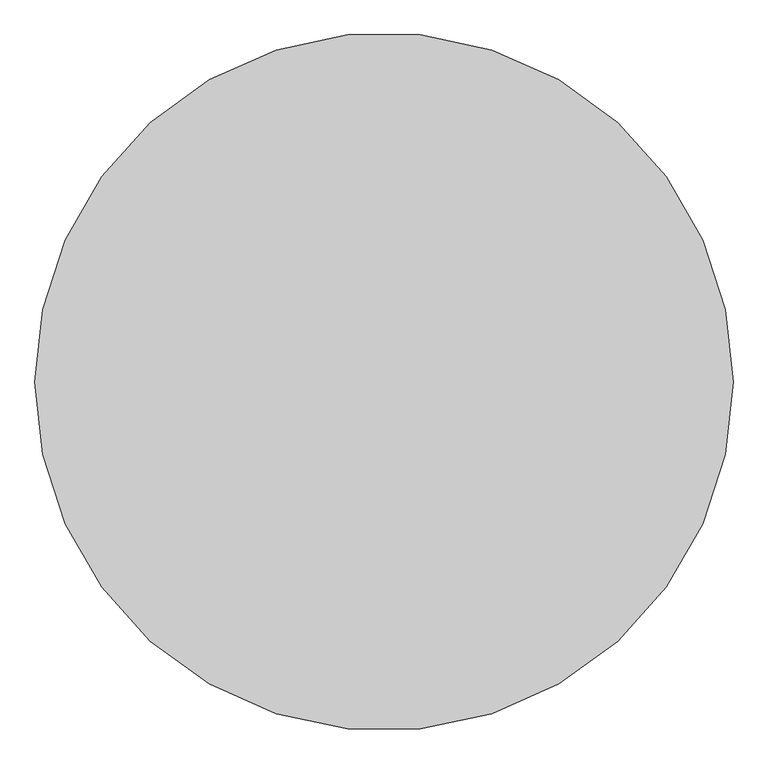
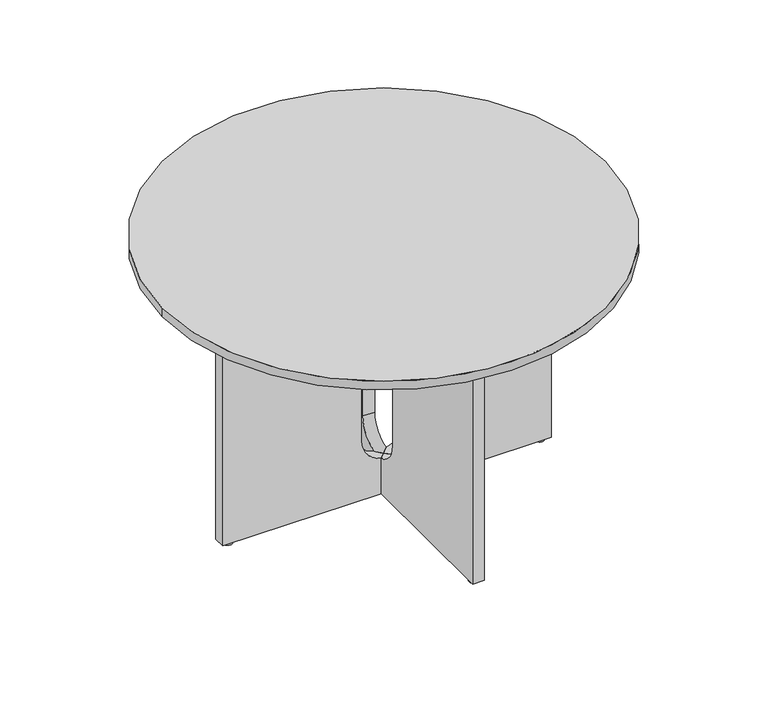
"""IFC4 building model written with IfcOpenShell, lengths in millimetres: furniture geometry, Audo Copenhagen - Androgyne - Dining Table Round - 120 : Dark Stained Oak/Kunis Breccia Sand."""

from ifc_helpers import new_model, si_unit, point, frame, frame_2d, origin, origin_with_axes, origin_2d, place, context, project, spatial, polyline, circle_curve, ellipse_curve, trimmed, segment, composite_curve, outline, extrude, source, transform, mapped, element, save
from ifc_brep_helpers import plane_surface, revolved_surface, advanced_brep


def furniture_845a83a7(model_context):
    return source(origin(), model_context, "Body", "SolidModel", [
        advanced_brep(
        [(70.0, -16.0, 177.0), (70.0, 16.0, 177.0), (16.0, 16.0, 108.8530999), (2.4e-06, 2.3e-06, 107.0), (16.0, -16.0, 108.8530999), (70.0, -16.0, 538.0), (70.0, 16.0, 538.0), (16.0, -16.0, 606.1469001), (2.4e-06, 2.3e-06, 608.0), (16.0, 16.0, 606.1469001), (445.0, -16.0, 708.0), (445.0, 16.0, 708.0), (16.0, 16.0, 708.0), (2.4e-06, 2.3e-06, 708.0), (16.0, -16.0, 708.0), (445.0, -16.0, 7.0), (16.0, -16.0, 7.0), (2.4e-06, 2.3e-06, 7.0), (16.0, 16.0, 7.0), (445.0, 16.0, 7.0)],
        [
            (0, 1),
            (1, 2, circle_curve(frame((0.0, 16.0, 177.0), z_axis=(0.0, 1.0, 0.0), x_axis=(-1.0, 0.0, 0.0)), 70.0)),
            (2, 3, ellipse_curve(frame((0.0, -2e-07, 177.0), z_axis=(-0.7071067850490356, 0.7071067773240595, 0.0), x_axis=(-0.7071067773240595, -0.7071067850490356, 0.0)), 98.9949499, 70.0)),
            (3, 4, ellipse_curve(frame((0.0, 4.7e-06, 177.0), z_axis=(-0.7071068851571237, -0.7071066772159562, 0.0), x_axis=(0.7071066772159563, -0.7071068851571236, 0.0)), 98.9949639, 70.0)),
            (4, 0, circle_curve(frame((0.0, -16.0, 177.0), z_axis=(0.0, -1.0, 0.0), x_axis=(-1.0, 0.0, 0.0)), 70.0)),
            (0, 5),
            (5, 6),
            (6, 1),
            (5, 7, circle_curve(frame((0.0, -16.0, 538.0), z_axis=(0.0, -1.0, 0.0), x_axis=(-1.0, 0.0, 0.0)), 70.0)),
            (7, 8, ellipse_curve(frame((0.0, 4.7e-06, 538.0), z_axis=(-0.7071068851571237, -0.7071066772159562, 0.0), x_axis=(0.7071066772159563, -0.7071068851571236, 0.0)), 98.9949639, 70.0)),
            (8, 9, ellipse_curve(frame((0.0, -2e-07, 538.0), z_axis=(-0.7071067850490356, 0.7071067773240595, 0.0), x_axis=(-0.7071067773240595, -0.7071067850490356, 0.0)), 98.9949499, 70.0)),
            (9, 6, circle_curve(frame((0.0, 16.0, 538.0), z_axis=(0.0, 1.0, 0.0), x_axis=(-1.0, 0.0, 0.0)), 70.0)),
            (10, 11),
            (11, 12),
            (12, 13),
            (13, 14),
            (14, 10),
            (15, 16),
            (16, 17),
            (17, 18),
            (18, 19),
            (19, 15),
            (14, 7),
            (4, 16),
            (15, 10),
            (11, 19),
            (18, 2),
            (9, 12),
            (13, 8),
            (3, 17),
        ],
        [
            revolved_surface(polyline([(-70.0, -70.00001586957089, 177.0), (-70.0, 70.0000252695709, 177.0)]), (0.0, 16.0, 177.0), (0.0, -1.0, 0.0)),
            plane_surface(frame((70.0, -16.0, 177.0), z_axis=(-1.0, 0.0, 0.0), x_axis=(0.0, 1.0, 0.0))),
            revolved_surface(polyline([(-70.0, -70.00001586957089, 538.0), (-70.0, 70.0000252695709, 538.0)]), (0.0, 16.0, 538.0), (0.0, -1.0, 0.0)),
            plane_surface(frame((445.0, 15.0, 708.0), z_axis=(0.0, 0.0, 1.0), x_axis=(0.0, 1.0, 0.0))),
            plane_surface(frame((445.0, 15.0, 7.0), z_axis=(0.0, 0.0, -1.0), x_axis=(0.0, -1.0, 0.0))),
            plane_surface(frame((16.0, -16.0, 708.0), z_axis=(0.0, -1.0, 0.0), x_axis=(0.0, 0.0, -1.0))),
            plane_surface(frame((445.0, 16.0, 708.0), z_axis=(0.0, 1.0, 0.0), x_axis=(0.0, 0.0, -1.0))),
            plane_surface(frame((445.0, -16.0, 708.0), z_axis=(1.0, 0.0, 0.0), x_axis=(0.0, 0.0, -1.0))),
            plane_surface(frame((2.4e-06, 2.3e-06, 708.0), z_axis=(-0.7071068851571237, -0.7071066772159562, 0.0), x_axis=(0.0, 0.0, -1.0))),
            plane_surface(frame((16.0, 16.0, 708.0), z_axis=(-0.7071067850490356, 0.7071067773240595, 0.0), x_axis=(0.0, 0.0, -1.0))),
        ],
        [
            (0, [[1, 2, 3, 4, 5]]),
            (1, [[-1, 6, 7, 8]]),
            (2, [[-7, 9, 10, 11, 12]]),
            (3, [[13, 14, 15, 16, 17]]),
            (4, [[18, 19, 20, 21, 22]]),
            (5, [[-17, 23, -9, -6, -5, 24, -18, 25]]),
            (6, [[-14, 26, -21, 27, -2, -8, -12, 28]]),
            (7, [[-13, -25, -22, -26]]),
            (8, [[-16, 29, -10, -23]]),
            (8, [[-19, -24, -4, 30]]),
            (9, [[-15, -28, -11, -29]]),
            (9, [[-20, -30, -3, -27]]),
        ],
    ),
        advanced_brep(
        [(-16.0, 70.0, 177.0), (16.0, 70.0, 177.0), (15.9999953, 70.0, 538.0), (-16.0, 70.0, 538.0), (-16.0000047, 16.0000002, 108.8530999), (-2.4e-06, 2.6e-06, 107.0), (15.9999953, 16.0000002, 108.8530999), (15.9999953, 16.0000002, 606.1469001), (-2.4e-06, 2.6e-06, 608.0), (-16.0000047, 16.0000002, 606.1469001), (-16.0000047, 445.0000002, 708.0), (-16.0000047, 16.0000002, 708.0), (-2.4e-06, 2.6e-06, 708.0), (15.9999953, 16.0000002, 708.0), (15.9999953, 445.0000002, 708.0), (-16.0000047, 445.0000002, 7.0), (15.9999953, 445.0000002, 7.0), (15.9999953, 16.0000002, 7.0), (-2.4e-06, 2.6e-06, 7.0), (-16.0000047, 16.0000002, 7.0)],
        [
            (0, 1),
            (1, 2),
            (2, 3),
            (3, 0),
            (0, 4, circle_curve(frame((-16.0000047, 0.0, 177.0), z_axis=(-1.0, 0.0, 0.0), x_axis=(0.0, -1.0, 0.0)), 70.0)),
            (4, 5, ellipse_curve(frame((2e-07, 0.0, 177.0), z_axis=(-0.7071066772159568, -0.707106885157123, 0.0), x_axis=(-0.7071068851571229, 0.7071066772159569, 0.0)), 98.9949639, 70.0)),
            (5, 6, ellipse_curve(frame((-5.1e-06, 0.0, 177.0), z_axis=(0.7071067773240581, -0.7071067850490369, 0.0), x_axis=(-0.7071067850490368, -0.7071067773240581, 0.0)), 98.9949499, 70.0)),
            (6, 1, circle_curve(frame((15.9999953, 0.0, 177.0), z_axis=(1.0, 0.0, 0.0), x_axis=(0.0, -1.0, 0.0)), 70.0)),
            (2, 7, circle_curve(frame((15.9999953, 0.0, 538.0), z_axis=(1.0, 0.0, 0.0), x_axis=(0.0, -1.0, 0.0)), 70.0)),
            (7, 8, ellipse_curve(frame((-5.1e-06, 0.0, 538.0), z_axis=(0.7071067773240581, -0.7071067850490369, 0.0), x_axis=(-0.7071067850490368, -0.7071067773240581, 0.0)), 98.9949499, 70.0)),
            (8, 9, ellipse_curve(frame((2e-07, 0.0, 538.0), z_axis=(-0.7071066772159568, -0.707106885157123, 0.0), x_axis=(-0.7071068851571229, 0.7071066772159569, 0.0)), 98.9949639, 70.0)),
            (9, 3, circle_curve(frame((-16.0000047, 0.0, 538.0), z_axis=(-1.0, 0.0, 0.0), x_axis=(0.0, -1.0, 0.0)), 70.0)),
            (10, 11),
            (11, 12),
            (12, 13),
            (13, 14),
            (14, 10),
            (15, 16),
            (16, 17),
            (17, 18),
            (18, 19),
            (19, 15),
            (10, 15),
            (19, 4),
            (9, 11),
            (13, 7),
            (6, 17),
            (16, 14),
            (8, 12),
            (18, 5),
        ],
        [
            plane_surface(frame((-16.0, 70.0, 538.0), z_axis=(0.0, -1.0, 0.0), x_axis=(1.0, 0.0, 0.0))),
            revolved_surface(polyline([(-70.00002036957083, -70.0, 177.0), (70.00002076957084, -70.0, 177.0)]), (16.0, 0.0, 177.0), (-1.0, 0.0, 0.0)),
            revolved_surface(polyline([(-70.00002036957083, -70.0, 538.0), (70.00002076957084, -70.0, 538.0)]), (16.0, 0.0, 538.0), (-1.0, 0.0, 0.0)),
            plane_surface(frame((-16.0000047, 444.0000002, 708.0), z_axis=(0.0, 0.0, 1.0), x_axis=(0.0, -1.0, 0.0))),
            plane_surface(frame((-16.0000047, 444.0000002, 7.0), z_axis=(0.0, 0.0, -1.0), x_axis=(0.0, 1.0, 0.0))),
            plane_surface(frame((-16.0000047, 445.0000002, 708.0), z_axis=(-1.0, 0.0, 0.0), x_axis=(0.0, 0.0, -1.0))),
            plane_surface(frame((15.9999953, 16.0000002, 708.0), z_axis=(1.0, 0.0, 0.0), x_axis=(0.0, 0.0, -1.0))),
            plane_surface(frame((15.9999953, 445.0000002, 708.0), z_axis=(0.0, 1.0, 0.0), x_axis=(0.0, 0.0, -1.0))),
            plane_surface(frame((-16.0000047, 16.0000002, 708.0), z_axis=(-0.7071066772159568, -0.707106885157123, 0.0), x_axis=(0.0, 0.0, -1.0))),
            plane_surface(frame((-2.4e-06, 2.6e-06, 708.0), z_axis=(0.7071067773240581, -0.7071067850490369, 0.0), x_axis=(0.0, 0.0, -1.0))),
        ],
        [
            (0, [[1, 2, 3, 4]]),
            (1, [[-1, 5, 6, 7, 8]]),
            (2, [[-3, 9, 10, 11, 12]]),
            (3, [[13, 14, 15, 16, 17]]),
            (4, [[18, 19, 20, 21, 22]]),
            (5, [[-13, 23, -22, 24, -5, -4, -12, 25]]),
            (6, [[-16, 26, -9, -2, -8, 27, -19, 28]]),
            (7, [[-17, -28, -18, -23]]),
            (8, [[-14, -25, -11, 29]]),
            (8, [[-21, 30, -6, -24]]),
            (9, [[-15, -29, -10, -26]]),
            (9, [[-20, -27, -7, -30]]),
        ],
    ),
        advanced_brep(
        [(-16.0, -70.0, 177.0), (16.0, -70.0, 177.0), (15.9999953, -16.0000002, 108.8530999), (-2.4e-06, -2.6e-06, 107.0), (-16.0000047, -16.0000002, 108.8530999), (-16.0000047, -70.0, 538.0), (16.0, -70.0, 538.0), (-16.0000047, -16.0000002, 606.1469001), (-2.4e-06, -2.6e-06, 608.0), (15.9999953, -16.0000002, 606.1469001), (-16.0000047, -445.0000002, 708.0), (15.9999953, -445.0000002, 708.0), (15.9999953, -16.0000002, 708.0), (-2.4e-06, -2.6e-06, 708.0), (-16.0000047, -16.0000002, 708.0), (-16.0000047, -445.0000002, 7.0), (-16.0000047, -16.0000002, 7.0), (-2.4e-06, -2.6e-06, 7.0), (15.9999953, -16.0000002, 7.0), (15.9999953, -445.0000002, 7.0)],
        [
            (0, 1),
            (1, 2, circle_curve(frame((15.9999953, 0.0, 177.0), z_axis=(1.0, 0.0, 0.0), x_axis=(0.0, 1.0, 0.0)), 70.0)),
            (2, 3, ellipse_curve(frame((-5.1e-06, 0.0, 177.0), z_axis=(0.7071067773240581, 0.7071067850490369, 0.0), x_axis=(-0.7071067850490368, 0.7071067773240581, 0.0)), 98.9949499, 70.0)),
            (3, 4, ellipse_curve(frame((2e-07, 0.0, 177.0), z_axis=(-0.7071066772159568, 0.707106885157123, 0.0), x_axis=(-0.707106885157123, -0.707106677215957, 0.0)), 98.9949639, 70.0)),
            (4, 0, circle_curve(frame((-16.0000047, 0.0, 177.0), z_axis=(-1.0, 0.0, 0.0), x_axis=(0.0, 1.0, 0.0)), 70.0)),
            (0, 5),
            (5, 6),
            (6, 1),
            (5, 7, circle_curve(frame((-16.0000047, 0.0, 538.0), z_axis=(-1.0, 0.0, 0.0), x_axis=(0.0, 1.0, 0.0)), 70.0)),
            (7, 8, ellipse_curve(frame((2e-07, 0.0, 538.0), z_axis=(-0.7071066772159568, 0.707106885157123, 0.0), x_axis=(-0.707106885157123, -0.707106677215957, 0.0)), 98.9949639, 70.0)),
            (8, 9, ellipse_curve(frame((-5.1e-06, 0.0, 538.0), z_axis=(0.7071067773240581, 0.7071067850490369, 0.0), x_axis=(-0.7071067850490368, 0.7071067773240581, 0.0)), 98.9949499, 70.0)),
            (9, 6, circle_curve(frame((15.9999953, 0.0, 538.0), z_axis=(1.0, 0.0, 0.0), x_axis=(0.0, 1.0, 0.0)), 70.0)),
            (10, 11),
            (11, 12),
            (12, 13),
            (13, 14),
            (14, 10),
            (15, 16),
            (16, 17),
            (17, 18),
            (18, 19),
            (19, 15),
            (14, 7),
            (4, 16),
            (15, 10),
            (11, 19),
            (18, 2),
            (9, 12),
            (13, 8),
            (3, 17),
        ],
        [
            revolved_surface(polyline([(-70.00002036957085, 70.0, 177.0), (70.00002076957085, 70.0, 177.0)]), (16.0, 0.0, 177.0), (-1.0, 0.0, 0.0)),
            plane_surface(frame((-16.0, -70.0, 177.0), z_axis=(0.0, 1.0, 0.0), x_axis=(1.0, 0.0, 0.0))),
            revolved_surface(polyline([(-70.00002036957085, 70.0, 538.0), (70.00002076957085, 70.0, 538.0)]), (16.0, 0.0, 538.0), (-1.0, 0.0, 0.0)),
            plane_surface(frame((14.9999953, -445.0000002, 708.0), z_axis=(0.0, 0.0, 1.0), x_axis=(1.0, 0.0, 0.0))),
            plane_surface(frame((14.9999953, -445.0000002, 7.0), z_axis=(0.0, 0.0, -1.0), x_axis=(-1.0, 0.0, 0.0))),
            plane_surface(frame((-16.0000047, -16.0000002, 708.0), z_axis=(-1.0, 0.0, 0.0), x_axis=(0.0, 0.0, -1.0))),
            plane_surface(frame((15.9999953, -445.0000002, 708.0), z_axis=(1.0, 0.0, 0.0), x_axis=(0.0, 0.0, -1.0))),
            plane_surface(frame((-16.0000047, -445.0000002, 708.0), z_axis=(0.0, -1.0, 0.0), x_axis=(0.0, 0.0, -1.0))),
            plane_surface(frame((-2.4e-06, -2.6e-06, 708.0), z_axis=(-0.7071066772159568, 0.707106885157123, 0.0), x_axis=(0.0, 0.0, -1.0))),
            plane_surface(frame((15.9999953, -16.0000002, 708.0), z_axis=(0.7071067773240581, 0.7071067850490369, 0.0), x_axis=(0.0, 0.0, -1.0))),
        ],
        [
            (0, [[1, 2, 3, 4, 5]]),
            (1, [[-1, 6, 7, 8]]),
            (2, [[-7, 9, 10, 11, 12]]),
            (3, [[13, 14, 15, 16, 17]]),
            (4, [[18, 19, 20, 21, 22]]),
            (5, [[-17, 23, -9, -6, -5, 24, -18, 25]]),
            (6, [[-14, 26, -21, 27, -2, -8, -12, 28]]),
            (7, [[-13, -25, -22, -26]]),
            (8, [[-16, 29, -10, -23]]),
            (8, [[-19, -24, -4, 30]]),
            (9, [[-15, -28, -11, -29]]),
            (9, [[-20, -30, -3, -27]]),
        ],
    ),
        extrude(outline(composite_curve([segment(trimmed(circle_curve(frame_2d((422.5015312, 0.0)), 12.5), [point((435.0015312, 0.0))], [point((410.0015312, 0.0))], False, "CARTESIAN"), True, "CONTINUOUS"), segment(trimmed(circle_curve(frame_2d((422.5015312, 0.0)), 12.5), [point((410.0015312, 0.0))], [point((435.0015312, 0.0))], False, "CARTESIAN"), True, "CONTINUOUS")], self_intersect=False)), origin_with_axes(), (0.0, 0.0, 1.0), 7.0),
        extrude(outline(composite_curve([segment(trimmed(circle_curve(frame_2d((4.7e-06, 422.501531)), 12.5), [point((4.7e-06, 435.001531))], [point((4.7e-06, 410.001531))], False, "CARTESIAN"), True, "CONTINUOUS"), segment(trimmed(circle_curve(frame_2d((4.7e-06, 422.501531)), 12.5), [point((4.7e-06, 410.001531))], [point((4.7e-06, 435.001531))], False, "CARTESIAN"), True, "CONTINUOUS")], self_intersect=False)), origin_with_axes(), (0.0, 0.0, 1.0), 7.0),
        extrude(outline(composite_curve([segment(trimmed(circle_curve(frame_2d((4.7e-06, -422.501531)), 12.5), [point((4.7e-06, -435.001531))], [point((4.7e-06, -410.001531))], False, "CARTESIAN"), True, "CONTINUOUS"), segment(trimmed(circle_curve(frame_2d((4.7e-06, -422.501531)), 12.5), [point((4.7e-06, -410.001531))], [point((4.7e-06, -435.001531))], False, "CARTESIAN"), True, "CONTINUOUS")], self_intersect=False)), origin_with_axes(), (0.0, 0.0, 1.0), 7.0),
        extrude(outline(composite_curve([segment(trimmed(circle_curve(frame_2d((-422.5015312, 0.0)), 12.5), [point((-435.0015312, 0.0))], [point((-410.0015312, 0.0))], False, "CARTESIAN"), True, "CONTINUOUS"), segment(trimmed(circle_curve(frame_2d((-422.5015312, 0.0)), 12.5), [point((-410.0015312, 0.0))], [point((-435.0015312, 0.0))], False, "CARTESIAN"), True, "CONTINUOUS")], self_intersect=False)), origin_with_axes(), (0.0, 0.0, 1.0), 7.0),
        advanced_brep(
        [(-445.0, -16.0, 708.0), (-16.0, -16.0, 708.0), (-2.4e-06, 2.3e-06, 708.0), (-16.0, 16.0, 708.0), (-445.0, 16.0, 708.0), (-445.0, -16.0, 7.0), (-445.0, 16.0, 7.0), (-16.0, 16.0, 7.0), (-2.4e-06, 2.3e-06, 7.0), (-16.0, -16.0, 7.0), (-16.0, -16.0, 108.8530999), (-70.0, -16.0, 177.0), (-70.0, -16.0, 538.0), (-16.0, -16.0, 606.1469001), (-16.0, 16.0, 606.1469001), (-70.0, 16.0, 538.0), (-70.0, 16.0, 177.0), (-16.0, 16.0, 108.8530999), (-2.4e-06, 2.3e-06, 107.0), (-2.4e-06, 2.3e-06, 608.0)],
        [
            (0, 1),
            (1, 2),
            (2, 3),
            (3, 4),
            (4, 0),
            (5, 6),
            (6, 7),
            (7, 8),
            (8, 9),
            (9, 5),
            (0, 5),
            (9, 10),
            (10, 11, circle_curve(frame((0.0, -16.0, 177.0), z_axis=(0.0, 1.0, 0.0), x_axis=(1.0, 0.0, 0.0)), 70.0)),
            (11, 12),
            (12, 13, circle_curve(frame((0.0, -16.0, 538.0), z_axis=(0.0, 1.0, 0.0), x_axis=(1.0, 0.0, 0.0)), 70.0)),
            (13, 1),
            (3, 14),
            (14, 15, circle_curve(frame((0.0, 16.0, 538.0), z_axis=(0.0, -1.0, 0.0), x_axis=(1.0, 0.0, 0.0)), 70.0)),
            (15, 16),
            (16, 17, circle_curve(frame((0.0, 16.0, 177.0), z_axis=(0.0, -1.0, 0.0), x_axis=(1.0, 0.0, 0.0)), 70.0)),
            (17, 7),
            (6, 4),
            (11, 16),
            (15, 12),
            (10, 18, ellipse_curve(frame((0.0, 4.7e-06, 177.0), z_axis=(0.7071068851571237, -0.7071066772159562, 0.0), x_axis=(-0.7071066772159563, -0.7071068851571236, 0.0)), 98.9949639, 70.0)),
            (18, 17, ellipse_curve(frame((0.0, -2e-07, 177.0), z_axis=(0.7071067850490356, 0.7071067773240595, 0.0), x_axis=(0.7071067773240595, -0.7071067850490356, 0.0)), 98.9949499, 70.0)),
            (14, 19, ellipse_curve(frame((0.0, -2e-07, 538.0), z_axis=(0.7071067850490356, 0.7071067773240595, 0.0), x_axis=(0.7071067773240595, -0.7071067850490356, 0.0)), 98.9949499, 70.0)),
            (19, 13, ellipse_curve(frame((0.0, 4.7e-06, 538.0), z_axis=(0.7071068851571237, -0.7071066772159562, 0.0), x_axis=(-0.7071066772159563, -0.7071068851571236, 0.0)), 98.9949639, 70.0)),
            (19, 2),
            (8, 18),
        ],
        [
            plane_surface(frame((-444.0, -16.0, 708.0), z_axis=(0.0, 0.0, 1.0), x_axis=(1.0, 0.0, 0.0))),
            plane_surface(frame((-444.0, -16.0, 7.0), z_axis=(0.0, 0.0, -1.0), x_axis=(-1.0, 0.0, 0.0))),
            plane_surface(frame((-445.0, -16.0, 708.0), z_axis=(0.0, -1.0, 0.0), x_axis=(0.0, 0.0, -1.0))),
            plane_surface(frame((-16.0, 16.0, 708.0), z_axis=(0.0, 1.0, 0.0), x_axis=(0.0, 0.0, -1.0))),
            plane_surface(frame((-445.0, 16.0, 708.0), z_axis=(-1.0, 0.0, 0.0), x_axis=(0.0, 0.0, -1.0))),
            plane_surface(frame((-70.0, -16.0, 538.0), z_axis=(1.0, 0.0, 0.0), x_axis=(0.0, 1.0, 0.0))),
            revolved_surface(polyline([(70.0, -70.00001586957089, 177.0), (70.0, 70.0000252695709, 177.0)]), (0.0, 16.0, 177.0), (0.0, -1.0, 0.0)),
            revolved_surface(polyline([(70.0, -70.00001586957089, 538.0), (70.0, 70.0000252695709, 538.0)]), (0.0, 16.0, 538.0), (0.0, -1.0, 0.0)),
            plane_surface(frame((-16.0, -16.0, 708.0), z_axis=(0.7071068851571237, -0.7071066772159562, 0.0), x_axis=(0.0, 0.0, -1.0))),
            plane_surface(frame((-2.4e-06, 2.3e-06, 708.0), z_axis=(0.7071067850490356, 0.7071067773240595, 0.0), x_axis=(0.0, 0.0, -1.0))),
        ],
        [
            (0, [[1, 2, 3, 4, 5]]),
            (1, [[6, 7, 8, 9, 10]]),
            (2, [[-1, 11, -10, 12, 13, 14, 15, 16]]),
            (3, [[-4, 17, 18, 19, 20, 21, -7, 22]]),
            (4, [[-5, -22, -6, -11]]),
            (5, [[23, -19, 24, -14]]),
            (6, [[-23, -13, 25, 26, -20]]),
            (7, [[-24, -18, 27, 28, -15]]),
            (8, [[-2, -16, -28, 29]]),
            (8, [[-9, 30, -25, -12]]),
            (9, [[-3, -29, -27, -17]]),
            (9, [[-8, -21, -26, -30]]),
        ],
    ),
        extrude(outline(composite_curve([segment(trimmed(circle_curve(origin_2d(), 600.0), [point((-600.0, 0.0))], [point((600.0, 0.0))], False, "CARTESIAN"), True, "CONTINUOUS"), segment(trimmed(circle_curve(origin_2d(), 600.0), [point((600.0, 0.0))], [point((-600.0, 0.0))], False, "CARTESIAN"), True, "CONTINUOUS")], self_intersect=False)), frame((0.0, 0.0, 708.0), z_axis=(0.0, 0.0, 1.0), x_axis=(1.0, 0.0, 0.0)), (0.0, 0.0, 1.0), 25.0),
    ])


if __name__ == "__main__":
    model = new_model("IFC4")
    model_context = context("Model", 3, world=origin())
    ifc_project = project(units=[si_unit("LENGTHUNIT", "METRE", prefix="MILLI")], contexts=[model_context])
    site = spatial("IfcSite", under=ifc_project)
    building = spatial("IfcBuilding", under=site)
    placement = place(None, origin())
    furniture_shape = furniture_845a83a7(model_context)
    element("IfcFurniture", 1, ObjectType="Audo Copenhagen - Androgyne - Dining Table Round - 120 : Dark Stained Oak/Kunis Breccia Sand", at=placement, inside=building, context=model_context, shape_type="MappedRepresentation", body=[
        mapped(furniture_shape, transform((0.0, 0.0, 0.0), x_axis=(1.0, 0.0, 0.0), y_axis=(0.0, 1.0, 0.0), z_axis=(0.0, 0.0, 1.0))),
    ])
    save(model, "model.ifc")
